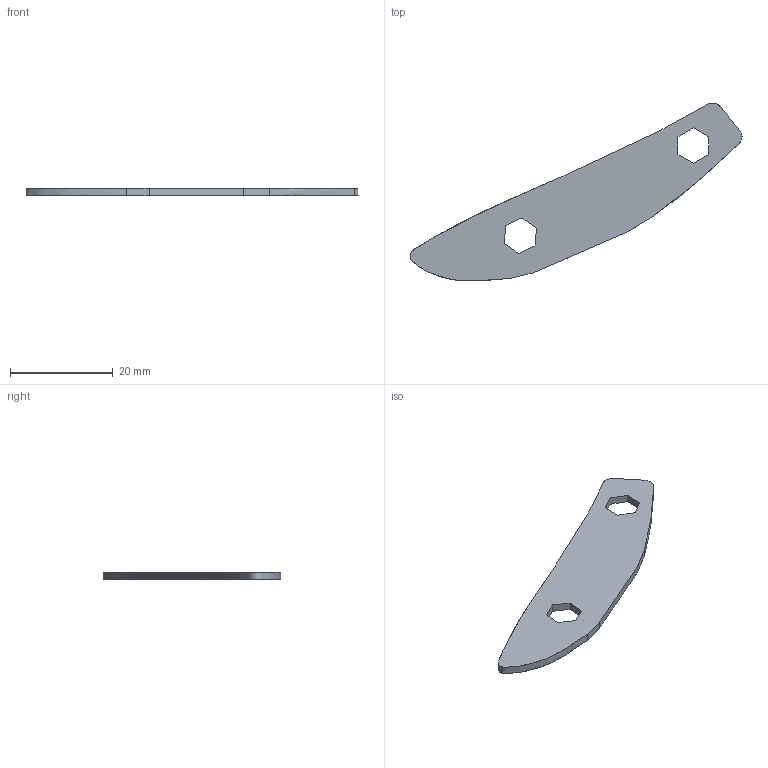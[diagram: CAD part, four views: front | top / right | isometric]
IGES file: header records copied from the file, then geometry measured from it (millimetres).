
Start section: START RECORD GO HERE.
Global section: file name: 20M_AE_03004 (fixation ailerons arrieres 2 et 3).igs; native system: IBM CATIA IGES - CATIA Version 5 Release 19 ; preprocessor: CATIA Version 5 Release 19 ; author: Martin Kawczynski; organization: DESKTOP-UDLM1FC; date: 20200124.004650; units: millimetre
Bounding box: 64.57 x 34.6 x 1.5 mm (x, y, z)
Surface area: 1898.2 mm2 (no closed solid volume)
Topology: 0 solids, 0 shells, 27 faces, 150 edges, 150 vertices
Faces by surface type: plane 22, extrusion 3, revolution 2
